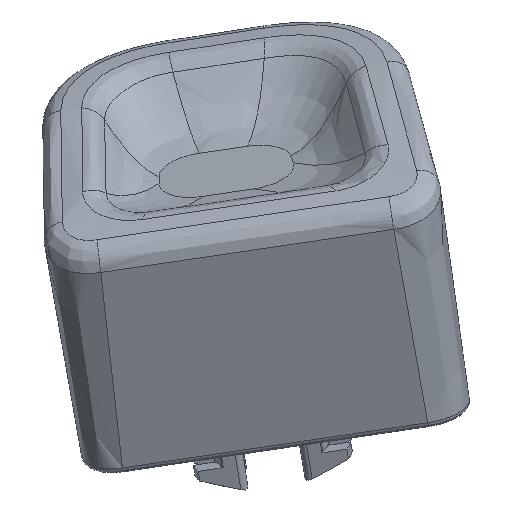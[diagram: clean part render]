
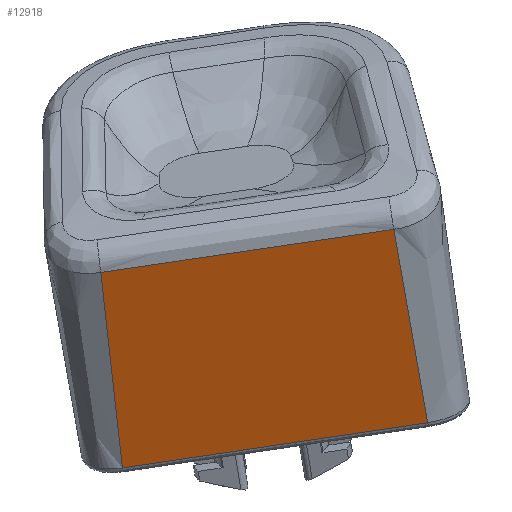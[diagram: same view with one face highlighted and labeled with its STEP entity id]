
A CAD part, front view. The second image highlights one B-rep face of the part: STEP entity #12918.
In plain terms, the highlighted free-form (B-spline) face has degree [1, 5] with [2, 6] control points.
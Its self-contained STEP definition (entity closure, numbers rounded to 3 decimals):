
#4574=CARTESIAN_POINT('Vertex',(-361.515,-983.568,490.135)) ;
#4578=CARTESIAN_POINT('Control Point',(-359.134,-976.725,476.506)) ;
#4579=CARTESIAN_POINT('Control Point',(-359.607,-978.094,479.233)) ;
#4580=CARTESIAN_POINT('Control Point',(-360.082,-979.464,481.962)) ;
#4581=CARTESIAN_POINT('Control Point',(-360.558,-980.834,484.69)) ;
#4582=CARTESIAN_POINT('Control Point',(-361.036,-982.202,487.414)) ;
#4583=CARTESIAN_POINT('Control Point',(-361.515,-983.568,490.135)) ;
#4584=CARTESIAN_POINT('Vertex',(-359.134,-976.725,476.506)) ;
#4734=CARTESIAN_POINT('Control Point',(-380.65,-975.918,473.323)) ;
#4735=CARTESIAN_POINT('Control Point',(-380.958,-977.296,476.079)) ;
#4736=CARTESIAN_POINT('Control Point',(-381.264,-978.673,478.835)) ;
#4737=CARTESIAN_POINT('Control Point',(-381.568,-980.048,481.585)) ;
#4738=CARTESIAN_POINT('Control Point',(-381.871,-981.426,484.342)) ;
#4739=CARTESIAN_POINT('Control Point',(-382.171,-982.803,487.097)) ;
#4740=CARTESIAN_POINT('Vertex',(-382.171,-982.803,487.097)) ;
#4742=CARTESIAN_POINT('Vertex',(-380.65,-975.918,473.323)) ;
#12881=CARTESIAN_POINT('Control Point',(-350.736,-971.473,466.521)) ;
#12882=CARTESIAN_POINT('Control Point',(-357.696,-971.221,465.51)) ;
#12883=CARTESIAN_POINT('Control Point',(-364.654,-970.966,464.493)) ;
#12884=CARTESIAN_POINT('Control Point',(-371.612,-970.708,463.469)) ;
#12885=CARTESIAN_POINT('Control Point',(-378.57,-970.446,462.439)) ;
#12886=CARTESIAN_POINT('Control Point',(-385.528,-970.182,461.399)) ;
#12887=CARTESIAN_POINT('Control Point',(-355.512,-985.979,495.429)) ;
#12888=CARTESIAN_POINT('Control Point',(-362.471,-985.726,494.418)) ;
#12889=CARTESIAN_POINT('Control Point',(-369.43,-985.471,493.401)) ;
#12890=CARTESIAN_POINT('Control Point',(-376.388,-985.213,492.377)) ;
#12891=CARTESIAN_POINT('Control Point',(-383.346,-984.952,491.346)) ;
#12892=CARTESIAN_POINT('Control Point',(-390.303,-984.687,490.307)) ;
#12894=CARTESIAN_POINT('Control Point',(-382.171,-982.803,487.097)) ;
#12895=CARTESIAN_POINT('Control Point',(-378.033,-982.959,487.711)) ;
#12896=CARTESIAN_POINT('Control Point',(-373.923,-983.112,488.319)) ;
#12897=CARTESIAN_POINT('Control Point',(-369.766,-983.266,488.93)) ;
#12898=CARTESIAN_POINT('Control Point',(-365.653,-983.417,489.532)) ;
#12899=CARTESIAN_POINT('Control Point',(-361.515,-983.568,490.135)) ;
#12902=CARTESIAN_POINT('Control Point',(-380.65,-975.918,473.323)) ;
#12903=CARTESIAN_POINT('Control Point',(-379.342,-975.967,473.516)) ;
#12904=CARTESIAN_POINT('Control Point',(-378.003,-976.017,473.714)) ;
#12905=CARTESIAN_POINT('Control Point',(-376.627,-976.069,473.918)) ;
#12906=CARTESIAN_POINT('Control Point',(-372.37,-976.228,474.548)) ;
#12907=CARTESIAN_POINT('Control Point',(-368.113,-976.388,475.178)) ;
#12908=CARTESIAN_POINT('Control Point',(-365.124,-976.5,475.62)) ;
#12909=CARTESIAN_POINT('Control Point',(-362.111,-976.613,476.066)) ;
#12910=CARTESIAN_POINT('Control Point',(-359.134,-976.725,476.506)) ;
#12913=ORIENTED_EDGE('',*,*,#4586,.F.) ;
#12914=ORIENTED_EDGE('',*,*,#12900,.F.) ;
#12915=ORIENTED_EDGE('',*,*,#4744,.T.) ;
#12916=ORIENTED_EDGE('',*,*,#12911,.F.) ;
#12918=ADVANCED_FACE('\X2\672C4F53\X0\-\X2\7EC87248\X0\',(#12917),#12880,.T.) ;
#12893=B_SPLINE_CURVE_WITH_KNOTS('',5,(#12894,#12895,#12896,#12897,#12898,#12899),.UNSPECIFIED.,.F.,.U.,(6,6),(0.,29.547),.UNSPECIFIED.) ;
#12901=B_SPLINE_CURVE_WITH_KNOTS('',5,(#12902,#12903,#12904,#12905,#12906,#12907,#12908,#12909,#12910),.UNSPECIFIED.,.F.,.U.,(6,3,6),(25.121,35.202,55.571),.UNSPECIFIED.) ;
#12880=B_SPLINE_SURFACE_WITH_KNOTS('',1,5,((#12881,#12882,#12883,#12884,#12885,#12886),(#12887,#12888,#12889,#12890,#12891,#12892)),.UNSPECIFIED.,.F.,.F.,.U.,(2,2),(6,6),(0.,32.694),(-1.236,33.954),.UNSPECIFIED.) ;
#4586=EDGE_CURVE('',#4575,#4585,#4577,.F.) ;
#4744=EDGE_CURVE('',#4741,#4743,#4733,.F.) ;
#12900=EDGE_CURVE('',#4741,#4575,#12893,.T.) ;
#12911=EDGE_CURVE('',#4585,#4743,#12901,.F.) ;
#12912=EDGE_LOOP('',(#12913,#12914,#12915,#12916)) ;
#12917=FACE_OUTER_BOUND('',#12912,.T.) ;
#4575=VERTEX_POINT('',#4574) ;
#4585=VERTEX_POINT('',#4584) ;
#4741=VERTEX_POINT('',#4740) ;
#4743=VERTEX_POINT('',#4742) ;
#4577=(BOUNDED_CURVE()B_SPLINE_CURVE(5,(#4578,#4579,#4580,#4581,#4582,#4583),.UNSPECIFIED.,.F.,.U.)B_SPLINE_CURVE_WITH_KNOTS((6,6),(6.55,21.95),.UNSPECIFIED.)CURVE()GEOMETRIC_REPRESENTATION_ITEM()RATIONAL_B_SPLINE_CURVE((1.,1.,1.,1.,1.,1.))REPRESENTATION_ITEM('')) ;
#4733=(BOUNDED_CURVE()B_SPLINE_CURVE(5,(#4734,#4735,#4736,#4737,#4738,#4739),.UNSPECIFIED.,.F.,.U.)B_SPLINE_CURVE_WITH_KNOTS((6,6),(5.894,21.274),.UNSPECIFIED.)CURVE()GEOMETRIC_REPRESENTATION_ITEM()RATIONAL_B_SPLINE_CURVE((1.,1.,1.,1.,1.,1.))REPRESENTATION_ITEM('')) ;
